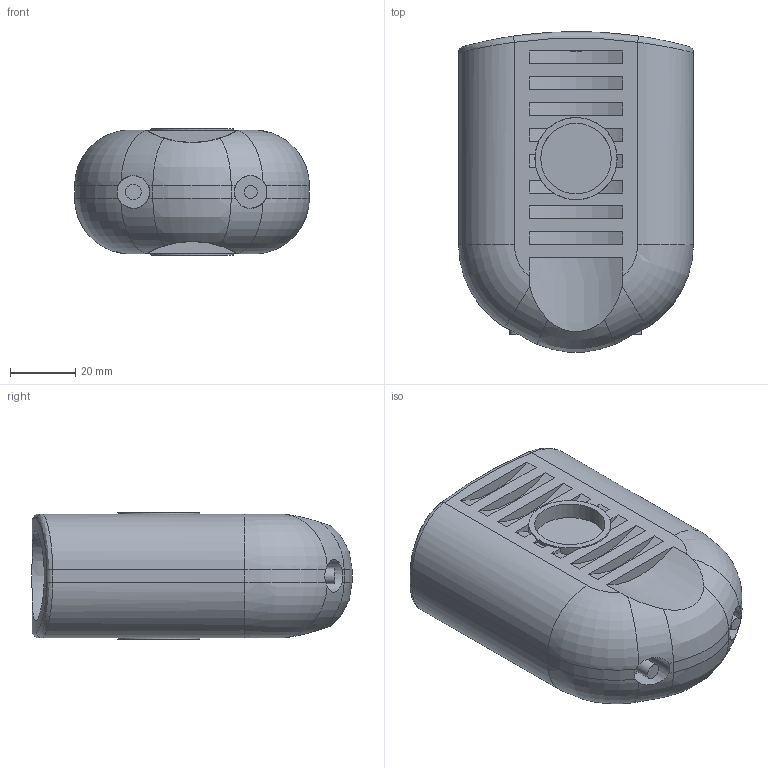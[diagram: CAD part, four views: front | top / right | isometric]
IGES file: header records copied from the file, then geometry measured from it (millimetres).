
Global section: file name: 490904025.ipt; native system: Autodesk Inventor 2015; preprocessor: unknown; author: Кирилл,,11,0; organization: 20170701.181418; date: 20171106.093709; units: millimetre
Bounding box: 72 x 98.18 x 38.76 mm (x, y, z)
Volume: 146221.3 mm3; surface area: 32830 mm2
Topology: 1 solids, 1 shells, 127 faces, 301 edges, 196 vertices
Faces by surface type: plane 62, revolution 45, cylinder 16, bspline 4
Full cylindrical faces by diameter (mm): 4 x1, 4.8 x1, 25.2 x2
